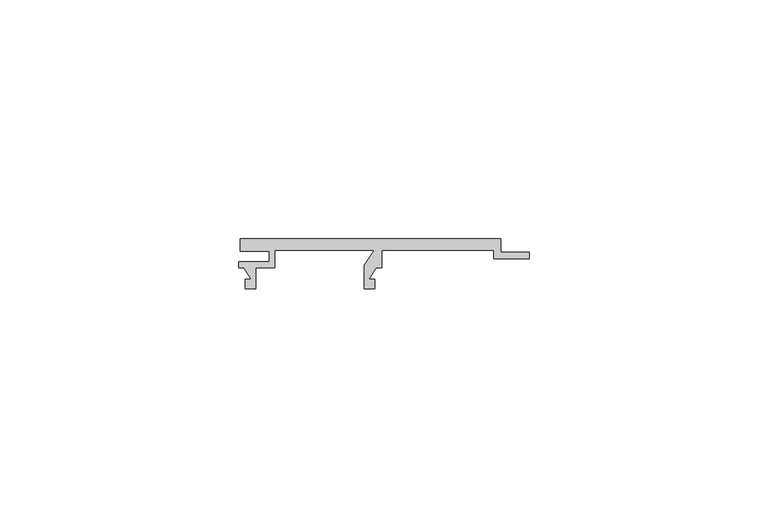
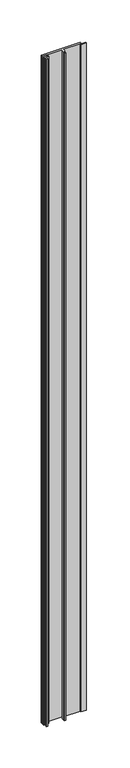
"""IFC4 building model written with IfcOpenShell, lengths in millimetres: proxy geometry, A_GEN_ Small  Base : A_GEN_ Small  Base."""

import ifcopenshell
import ifcopenshell.guid

model = None  # the IFC model being written
_history = None  # IfcOwnerHistory: only IFC2X3 demands one
_inside = {}  # id of a spatial element -> (the spatial element, [elements in it])
_under = {}  # id of a project, library or spatial element -> (it, [spatial elements below it])
_declared = {}  # id of a project -> (the project, [libraries it declares])
_typed = {}  # id of a type object -> (the type object, [elements of that type])
_made_of = {}  # id of a material, layer set ... -> (it, [elements and type objects made of it])


def new_model(schema):
    """Start an empty IFC model of exactly this schema.

    Asked for "IFC4X3", IfcOpenShell would pick the latest addendum, in which some entities
    have other attributes; the version numbers below select the first issue.
    IFC2X3 requires an IfcOwnerHistory on every rooted entity: one is made here for all.
    """
    global model, _history
    if schema == "IFC4X3":
        model = ifcopenshell.file(schema_version=(4, 3, 0, 0))
    else:
        model = ifcopenshell.file(schema=schema)
    _inside.clear()
    _under.clear()
    _declared.clear()
    _typed.clear()
    _made_of.clear()
    _history = None
    if model.schema == "IFC2X3":
        org = make("IfcOrganization", Name="unknown")
        user = make(
            "IfcPersonAndOrganization",
            ThePerson=make("IfcPerson", FamilyName="unknown"),
            TheOrganization=org,
        )
        app = make(
            "IfcApplication",
            ApplicationDeveloper=org,
            Version="unknown",
            ApplicationFullName="unknown",
            ApplicationIdentifier="unknown",
        )
        _history = make(
            "IfcOwnerHistory",
            OwningUser=user,
            OwningApplication=app,
            ChangeAction="ADDED",
            CreationDate=0,
        )
    return model


def make(cls, **values):
    """One entity of the class cls with the attributes given. An attribute that is None is left unset."""
    return model.create_entity(
        cls, **{name: value for name, value in values.items() if value is not None}
    )


def rooted(cls, **values):
    """An entity with a GlobalId (a new one), such as an element, a storey or a relation."""
    return make(cls, GlobalId=ifcopenshell.guid.new(), OwnerHistory=_history, **values)


def si_unit(unit_type, name, prefix=None):
    """IfcSIUnit, for example si_unit("LENGTHUNIT", "METRE", prefix="MILLI")."""
    return make("IfcSIUnit", UnitType=unit_type, Prefix=prefix, Name=name)


def assignment(units):
    """IfcUnitAssignment: the units of a project."""
    return None if units is None else make("IfcUnitAssignment", Units=units)


def point(xyz):
    """IfcCartesianPoint."""
    return None if xyz is None else make("IfcCartesianPoint", Coordinates=xyz)


def direction(xyz):
    """IfcDirection."""
    return None if xyz is None else make("IfcDirection", DirectionRatios=xyz)


def frame(location, z_axis=None, x_axis=None):
    """IfcAxis2Placement3D, a coordinate frame: its origin and axes. An axis left out is left unset."""
    return make(
        "IfcAxis2Placement3D",
        Location=point(location),
        Axis=direction(z_axis),
        RefDirection=direction(x_axis),
    )


def origin():
    """The frame at (0, 0, 0) with its axes left unset."""
    return frame((0.0, 0.0, 0.0))


def origin_with_axes():
    """The frame at (0, 0, 0) with the z axis (0, 0, 1) and the x axis (1, 0, 0) written out."""
    return frame((0.0, 0.0, 0.0), z_axis=(0.0, 0.0, 1.0), x_axis=(1.0, 0.0, 0.0))


def place(relative_to, where):
    """IfcLocalPlacement: puts the frame where relative to a parent placement (None: the world)."""
    return make(
        "IfcLocalPlacement", PlacementRelTo=relative_to, RelativePlacement=where
    )


def context(
    kind, dimensions, precision=None, world=None, true_north=None, identifier=None
):
    """IfcGeometricRepresentationContext, for example the 3D "Model" context."""
    return make(
        "IfcGeometricRepresentationContext",
        ContextIdentifier=identifier,
        ContextType=kind,
        CoordinateSpaceDimension=dimensions,
        Precision=precision,
        WorldCoordinateSystem=world,
        TrueNorth=true_north,
    )


def project(units=None, contexts=None):
    """IfcProject with its units and contexts."""
    return rooted(
        "IfcProject",
        Name="project",
        RepresentationContexts=contexts,
        UnitsInContext=assignment(units),
    )


def spatial(cls, under=None, at=None, **own):
    """A site, building, storey or space (cls), placed at a placement, below another one or the project."""
    s = rooted(cls, ObjectPlacement=at, **own)
    if under is not None:
        _under.setdefault(under.id(), (under, []))[1].append(s)
    return s


def polyline(points):
    """IfcPolyline through the points."""
    return make("IfcPolyline", Points=[point(p) for p in points])


def outline(outer, holes=None, kind="AREA"):
    """IfcArbitraryClosedProfileDef: a profile drawn as a closed curve; with holes, ...WithVoids."""
    if holes is None:
        return make("IfcArbitraryClosedProfileDef", ProfileType=kind, OuterCurve=outer)
    return make(
        "IfcArbitraryProfileDefWithVoids",
        ProfileType=kind,
        OuterCurve=outer,
        InnerCurves=holes,
    )


def extrude(swept, where, along, depth):
    """IfcExtrudedAreaSolid: the profile swept, set in the frame where, extruded along a direction by depth."""
    return make(
        "IfcExtrudedAreaSolid",
        SweptArea=swept,
        Position=where,
        ExtrudedDirection=direction(along),
        Depth=depth,
    )


def shape(context_of_items, identifier, shape_type, items):
    """IfcShapeRepresentation: the items that make up one representation, for example the "Body"."""
    return make(
        "IfcShapeRepresentation",
        ContextOfItems=context_of_items,
        RepresentationIdentifier=identifier,
        RepresentationType=shape_type,
        Items=items,
    )


def source(mapping_origin, context_of_items, identifier, shape_type, items):
    """IfcRepresentationMap: a shape defined once, which mapped items show again and again."""
    return make(
        "IfcRepresentationMap",
        MappingOrigin=mapping_origin,
        MappedRepresentation=shape(context_of_items, identifier, shape_type, items),
    )


def transform(
    local_origin,
    x_axis=None,
    y_axis=None,
    z_axis=None,
    scale=None,
    scale2=None,
    scale3=None,
    uniform=True,
):
    """IfcCartesianTransformationOperator3D, or its non-uniform kind. x_axis, y_axis, z_axis: its Axis1, 2, 3."""
    if uniform:
        return make(
            "IfcCartesianTransformationOperator3D",
            Axis1=direction(x_axis),
            Axis2=direction(y_axis),
            LocalOrigin=point(local_origin),
            Scale=scale,
            Axis3=direction(z_axis),
        )
    return make(
        "IfcCartesianTransformationOperator3DnonUniform",
        Axis1=direction(x_axis),
        Axis2=direction(y_axis),
        LocalOrigin=point(local_origin),
        Scale=scale,
        Axis3=direction(z_axis),
        Scale2=scale2,
        Scale3=scale3,
    )


def mapped(mapping_source, mapping_target):
    """IfcMappedItem: shows the shape of a source again, moved by a transform."""
    return make(
        "IfcMappedItem", MappingSource=mapping_source, MappingTarget=mapping_target
    )


def made_of(thing, what):
    """Note that an element or type object is made of a material, layer set ...; save() writes the relation."""
    if what is not None:
        _made_of.setdefault(what.id(), (what, []))[1].append(thing)
    return thing


def element(
    cls,
    number,
    at=None,
    inside=None,
    cuts=None,
    type_object=None,
    material=None,
    context=None,
    identifier="Body",
    shape_type=None,
    held_by="IfcProductDefinitionShape",
    body=None,
    shapes=None,
    **own,
):
    """One element of the class cls, such as IfcWall. Its Tag is "e" and its number.

    at: its placement. inside: the storey or other place that contains it. cuts: it is an
    opening in that element (IfcRelVoidsElement). A single representation is given by context,
    identifier, shape_type and body (its items); several are given by shapes. held_by: the class
    of the entity that holds the representations. save() writes the other relations.
    """
    e = rooted(cls, Tag="e%d" % number, ObjectPlacement=at, **own)
    if body is not None:
        shapes = [shape(context, identifier, shape_type, body)]
    if shapes is not None:
        e.Representation = make(held_by, Representations=shapes)
    if inside is not None:
        _inside.setdefault(inside.id(), (inside, []))[1].append(e)
    if cuts is not None:
        rooted(
            "IfcRelVoidsElement", RelatingBuildingElement=cuts, RelatedOpeningElement=e
        )
    if type_object is not None:
        _typed.setdefault(type_object.id(), (type_object, []))[1].append(e)
    return made_of(e, material)


def aggregate(whole, parts):
    """IfcRelAggregates: a whole, such as a stair, and the parts it consists of."""
    return rooted("IfcRelAggregates", RelatingObject=whole, RelatedObjects=parts)


def save(model, path):
    """Write the relations noted so far, then the file.

    IfcRelAggregates (storeys below a building ...), IfcRelContainedInSpatialStructure (elements
    in a storey), IfcRelDefinesByType, IfcRelAssociatesMaterial and IfcRelDeclares: one each for
    every whole, place, type object, material and project.
    """
    for whole, parts in _under.values():
        aggregate(whole, parts)
    for where, things in _inside.values():
        rooted(
            "IfcRelContainedInSpatialStructure",
            RelatedElements=things,
            RelatingStructure=where,
        )
    for kind, things in _typed.values():
        rooted("IfcRelDefinesByType", RelatedObjects=things, RelatingType=kind)
    for what, things in _made_of.values():
        rooted("IfcRelAssociatesMaterial", RelatedObjects=things, RelatingMaterial=what)
    for by, libraries in _declared.values():
        rooted("IfcRelDeclares", RelatingContext=by, RelatedDefinitions=libraries)
    model.write(path)


def generic_models_2e917140(model_context):
    return source(origin(), model_context, "Body", "SweptSolid", [
        extrude(outline(polyline([(0.0, 0.0), (54.5728944, 0.0), (54.5728944, -2.85), (60.5728944, -2.85), (60.5728944, -4.2), (53.0545393, -4.2), (53.0545393, -2.4), (29.5849719, -2.4), (29.5849719, -6.1021884), (28.4699984, -6.1021884), (26.8814326, -8.4994005), (28.1433665, -8.4994005), (28.1433665, -10.4818695), (25.9408405, -10.4818695), (25.9408405, -5.6343123), (28.0399616, -2.4), (7.2195527, -2.4), (7.2195527, -6.1), (3.2291033, -6.1), (3.2291033, -10.4818695), (1.0265772, -10.4818695), (1.0265772, -8.4994005), (2.2885111, -8.4994005), (0.6999453, -6.1021884), (-0.3862402, -6.1021884), (-0.3862402, -4.9), (6.0195527, -4.9), (6.0195527, -2.7), (0.0, -2.7), (0.0, 0.0)])), origin_with_axes(), (0.0, 0.0, 1.0), 992.5516144),
    ])


if __name__ == "__main__":
    model = new_model("IFC4")
    model_context = context("Model", 3, world=origin())
    ifc_project = project(units=[si_unit("LENGTHUNIT", "METRE", prefix="MILLI")], contexts=[model_context])
    site = spatial("IfcSite", under=ifc_project)
    building = spatial("IfcBuilding", under=site)
    placement = place(None, origin())
    generic_models_shape = generic_models_2e917140(model_context)
    element("IfcBuildingElementProxy", 1, Name="A_GEN_ Small  Base : A_GEN_ Small  Base", ObjectType="A_GEN_ Small  Base : A_GEN_ Small  Base", at=placement, inside=building, context=model_context, shape_type="MappedRepresentation", body=[
        mapped(generic_models_shape, transform((0.0, 0.0, 0.0), x_axis=(1.0, 0.0, 0.0), y_axis=(0.0, 1.0, 0.0), z_axis=(0.0, 0.0, 1.0))),
    ])
    save(model, "model.ifc")
